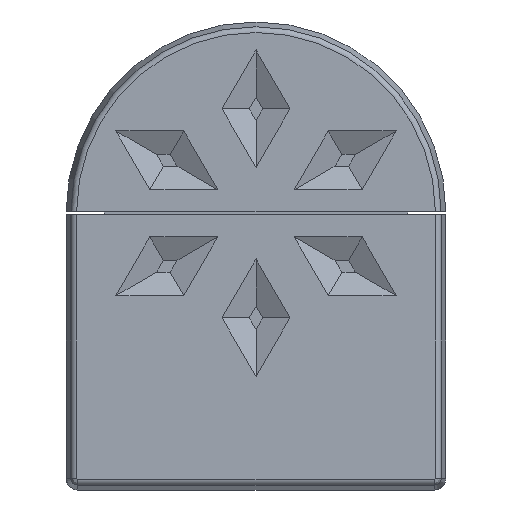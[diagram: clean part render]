
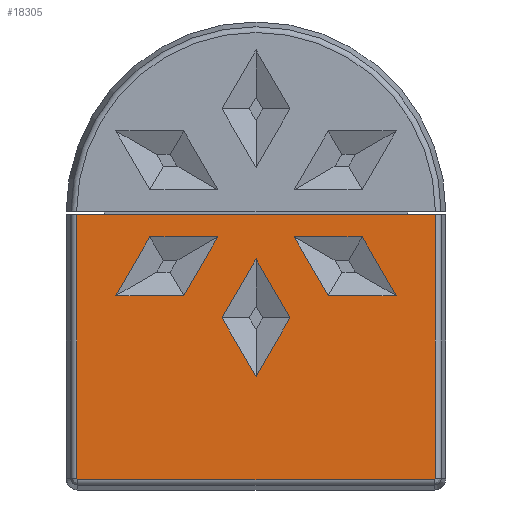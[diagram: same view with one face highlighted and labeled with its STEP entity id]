
A CAD part, front view. The second image highlights one B-rep face of the part: STEP entity #18305.
In plain terms, the highlighted planar face has unit normal (0, -1, 0).
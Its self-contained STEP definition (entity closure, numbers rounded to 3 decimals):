
#198=FACE_BOUND('',#2508,.T.);
#199=FACE_BOUND('',#2509,.T.);
#200=FACE_BOUND('',#2510,.T.);
#416=B_SPLINE_CURVE_WITH_KNOTS('',3,(#29608,#29609,#29610,#29611,#29612),
 .UNSPECIFIED.,.F.,.F.,(4,1,4),(0.,0.015,0.034),
 .UNSPECIFIED.);
#417=B_SPLINE_CURVE_WITH_KNOTS('',3,(#29615,#29616,#29617,#29618,#29619),
 .UNSPECIFIED.,.F.,.F.,(4,1,4),(0.,0.015,0.034),
 .UNSPECIFIED.);
#1426=FACE_OUTER_BOUND('',#2507,.T.);
#2507=EDGE_LOOP('',(#16019,#16020,#16021,#16022,#16023,#16024));
#2508=EDGE_LOOP('',(#16025,#16026,#16027,#16028));
#2509=EDGE_LOOP('',(#16029,#16030,#16031,#16032));
#2510=EDGE_LOOP('',(#16033,#16034,#16035,#16036));
#4676=LINE('',#29456,#6969);
#4678=LINE('',#29460,#6971);
#4681=LINE('',#29466,#6974);
#4684=LINE('',#29471,#6977);
#4688=LINE('',#29481,#6981);
#4690=LINE('',#29485,#6983);
#4693=LINE('',#29491,#6986);
#4696=LINE('',#29496,#6989);
#4736=LINE('',#29581,#7029);
#4738=LINE('',#29585,#7031);
#4741=LINE('',#29591,#7034);
#4744=LINE('',#29596,#7037);
#4746=LINE('',#29602,#7039);
#4747=LINE('',#29604,#7040);
#4748=LINE('',#29606,#7041);
#4749=LINE('',#29614,#7042);
#6969=VECTOR('',#24005,10.);
#6971=VECTOR('',#24009,10.);
#6974=VECTOR('',#24014,10.);
#6977=VECTOR('',#24019,10.);
#6981=VECTOR('',#24027,10.);
#6983=VECTOR('',#24031,10.);
#6986=VECTOR('',#24036,10.);
#6989=VECTOR('',#24041,10.);
#7029=VECTOR('',#24115,10.);
#7031=VECTOR('',#24119,10.);
#7034=VECTOR('',#24124,10.);
#7037=VECTOR('',#24129,10.);
#7039=VECTOR('',#24135,10.);
#7040=VECTOR('',#24136,10.);
#7041=VECTOR('',#24137,10.);
#7042=VECTOR('',#24138,10.);
#8551=VERTEX_POINT('',#29453);
#8552=VERTEX_POINT('',#29455);
#8553=VERTEX_POINT('',#29459);
#8555=VERTEX_POINT('',#29465);
#8559=VERTEX_POINT('',#29478);
#8560=VERTEX_POINT('',#29480);
#8561=VERTEX_POINT('',#29484);
#8563=VERTEX_POINT('',#29490);
#8591=VERTEX_POINT('',#29578);
#8592=VERTEX_POINT('',#29580);
#8593=VERTEX_POINT('',#29584);
#8595=VERTEX_POINT('',#29590);
#8597=VERTEX_POINT('',#29600);
#8598=VERTEX_POINT('',#29601);
#8599=VERTEX_POINT('',#29603);
#8600=VERTEX_POINT('',#29605);
#8601=VERTEX_POINT('',#29607);
#8602=VERTEX_POINT('',#29613);
#11023=EDGE_CURVE('',#8552,#8551,#4676,.T.);
#11025=EDGE_CURVE('',#8553,#8552,#4678,.T.);
#11028=EDGE_CURVE('',#8555,#8553,#4681,.T.);
#11031=EDGE_CURVE('',#8551,#8555,#4684,.T.);
#11035=EDGE_CURVE('',#8560,#8559,#4688,.T.);
#11037=EDGE_CURVE('',#8561,#8560,#4690,.T.);
#11040=EDGE_CURVE('',#8563,#8561,#4693,.T.);
#11043=EDGE_CURVE('',#8559,#8563,#4696,.T.);
#11083=EDGE_CURVE('',#8592,#8591,#4736,.T.);
#11085=EDGE_CURVE('',#8593,#8592,#4738,.T.);
#11088=EDGE_CURVE('',#8595,#8593,#4741,.T.);
#11091=EDGE_CURVE('',#8591,#8595,#4744,.T.);
#11093=EDGE_CURVE('',#8597,#8598,#4746,.T.);
#11094=EDGE_CURVE('',#8598,#8599,#4747,.T.);
#11095=EDGE_CURVE('',#8599,#8600,#4748,.T.);
#11096=EDGE_CURVE('',#8600,#8601,#416,.T.);
#11097=EDGE_CURVE('',#8601,#8602,#4749,.T.);
#11098=EDGE_CURVE('',#8602,#8597,#417,.T.);
#16019=ORIENTED_EDGE('',*,*,#11093,.T.);
#16020=ORIENTED_EDGE('',*,*,#11094,.T.);
#16021=ORIENTED_EDGE('',*,*,#11095,.T.);
#16022=ORIENTED_EDGE('',*,*,#11096,.T.);
#16023=ORIENTED_EDGE('',*,*,#11097,.T.);
#16024=ORIENTED_EDGE('',*,*,#11098,.T.);
#16025=ORIENTED_EDGE('',*,*,#11023,.T.);
#16026=ORIENTED_EDGE('',*,*,#11031,.T.);
#16027=ORIENTED_EDGE('',*,*,#11028,.T.);
#16028=ORIENTED_EDGE('',*,*,#11025,.T.);
#16029=ORIENTED_EDGE('',*,*,#11083,.T.);
#16030=ORIENTED_EDGE('',*,*,#11091,.T.);
#16031=ORIENTED_EDGE('',*,*,#11088,.T.);
#16032=ORIENTED_EDGE('',*,*,#11085,.T.);
#16033=ORIENTED_EDGE('',*,*,#11035,.T.);
#16034=ORIENTED_EDGE('',*,*,#11043,.T.);
#16035=ORIENTED_EDGE('',*,*,#11040,.T.);
#16036=ORIENTED_EDGE('',*,*,#11037,.T.);
#17262=PLANE('',#19551);
#18305=ADVANCED_FACE('',(#1426,#198,#199,#200),#17262,.F.);
#19551=AXIS2_PLACEMENT_3D('',#29599,#24133,#24134);
#24005=DIRECTION('',(-0.5,0.,-0.866));
#24009=DIRECTION('',(0.5,0.,-0.866));
#24014=DIRECTION('',(0.5,0.,0.866));
#24019=DIRECTION('',(-0.5,0.,0.866));
#24027=DIRECTION('',(-1.,0.,0.));
#24031=DIRECTION('',(-0.5,0.,-0.866));
#24036=DIRECTION('',(1.,0.,0.));
#24041=DIRECTION('',(0.5,0.,0.866));
#24115=DIRECTION('',(0.5,0.,-0.866));
#24119=DIRECTION('',(1.,0.,0.));
#24124=DIRECTION('',(-0.5,0.,0.866));
#24129=DIRECTION('',(-1.,0.,0.));
#24133=DIRECTION('center_axis',(0.,1.,0.));
#24134=DIRECTION('ref_axis',(1.,0.,0.));
#24135=DIRECTION('',(0.,0.,1.));
#24136=DIRECTION('',(-1.,0.,0.));
#24137=DIRECTION('',(0.,0.,-1.));
#24138=DIRECTION('',(1.,0.,0.));
#29453=CARTESIAN_POINT('',(300.,-84.,-28.));
#29455=CARTESIAN_POINT('',(305.774,-84.,-18.));
#29456=CARTESIAN_POINT('',(304.33,-84.,-20.5));
#29459=CARTESIAN_POINT('',(300.,-84.,-8.));
#29460=CARTESIAN_POINT('',(302.887,-84.,-13.));
#29465=CARTESIAN_POINT('',(294.226,-84.,-18.));
#29466=CARTESIAN_POINT('',(300.,-84.,-8.));
#29471=CARTESIAN_POINT('',(292.783,-84.,-15.5));
#29478=CARTESIAN_POINT('',(276.184,-84.,-14.25));
#29480=CARTESIAN_POINT('',(287.731,-84.,-14.25));
#29481=CARTESIAN_POINT('',(288.092,-84.,-14.25));
#29484=CARTESIAN_POINT('',(293.505,-84.,-4.25));
#29485=CARTESIAN_POINT('',(290.618,-84.,-9.25));
#29490=CARTESIAN_POINT('',(281.958,-84.,-4.25));
#29491=CARTESIAN_POINT('',(296.752,-84.,-4.25));
#29496=CARTESIAN_POINT('',(283.401,-84.,-1.75));
#29578=CARTESIAN_POINT('',(323.816,-84.,-14.25));
#29580=CARTESIAN_POINT('',(318.042,-84.,-4.25));
#29581=CARTESIAN_POINT('',(319.486,-84.,-6.75));
#29584=CARTESIAN_POINT('',(306.495,-84.,-4.25));
#29585=CARTESIAN_POINT('',(309.021,-84.,-4.25));
#29590=CARTESIAN_POINT('',(312.269,-84.,-14.25));
#29591=CARTESIAN_POINT('',(306.495,-84.,-4.25));
#29596=CARTESIAN_POINT('',(306.134,-84.,-14.25));
#29599=CARTESIAN_POINT('Origin',(300.,-84.,-7.5));
#29600=CARTESIAN_POINT('',(330.469,-84.,-45.25));
#29601=CARTESIAN_POINT('',(330.469,-84.,-0.5));
#29602=CARTESIAN_POINT('',(330.469,-84.,-17.438));
#29603=CARTESIAN_POINT('',(269.531,-84.,-0.5));
#29604=CARTESIAN_POINT('',(316.125,-84.,-0.5));
#29605=CARTESIAN_POINT('',(269.531,-84.,-45.25));
#29606=CARTESIAN_POINT('',(269.531,-84.,-5.75));
#29607=CARTESIAN_POINT('',(269.75,-84.,-45.469));
#29608=CARTESIAN_POINT('Ctrl Pts',(269.531,-84.,-45.25));
#29609=CARTESIAN_POINT('Ctrl Pts',(269.531,-84.,-45.299));
#29610=CARTESIAN_POINT('Ctrl Pts',(269.571,-84.,-45.414));
#29611=CARTESIAN_POINT('Ctrl Pts',(269.684,-84.,-45.469));
#29612=CARTESIAN_POINT('Ctrl Pts',(269.75,-84.,-45.469));
#29613=CARTESIAN_POINT('',(330.25,-84.,-45.469));
#29614=CARTESIAN_POINT('',(291.938,-84.,-45.469));
#29615=CARTESIAN_POINT('Ctrl Pts',(330.25,-84.,-45.469));
#29616=CARTESIAN_POINT('Ctrl Pts',(330.299,-84.,-45.469));
#29617=CARTESIAN_POINT('Ctrl Pts',(330.414,-84.,-45.429));
#29618=CARTESIAN_POINT('Ctrl Pts',(330.469,-84.,-45.316));
#29619=CARTESIAN_POINT('Ctrl Pts',(330.469,-84.,-45.25));
